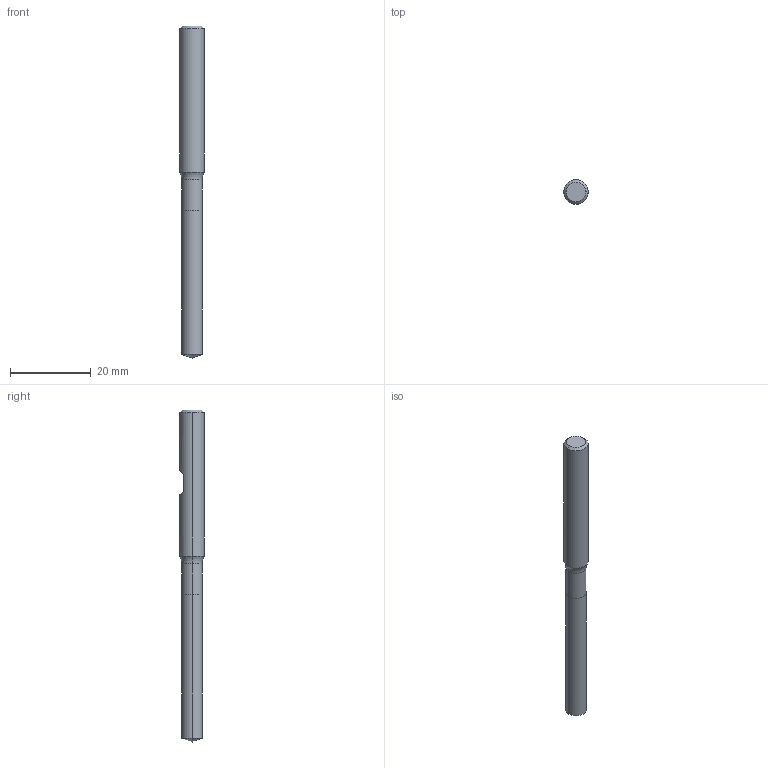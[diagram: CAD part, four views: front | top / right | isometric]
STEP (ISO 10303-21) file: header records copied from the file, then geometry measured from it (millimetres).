
FILE_DESCRIPTION (( 'STEP AP214' ), '1' );
FILE_NAME ('711.502.10_3D-model.step', '2022-02-22T18:34:48', ( '' ), ( '' ), 'SwSTEP 2.0', 'SolidWorks 2020', '' );
FILE_SCHEMA (( 'AUTOMOTIVE_DESIGN' ));
Length unit declared in the file: millimetre
Products named in the file (3): NOCUT-3D^Baugr77; 711.502.10_3D-model; CUT-3D^Baugr77
Assembly tree (2 placements, depth 2):
  711.502.10_3D-model
    CUT-3D^Baugr77
    NOCUT-3D^Baugr77
Bounding box: 6 x 6 x 82 mm (x, y, z)
Volume: 1905.8 mm3; surface area: 1474.9 mm2
Topology: 2 solids, 2 shells, 18 faces, 34 edges, 19 vertices
Faces by surface type: cylinder 6, plane 6, cone 4, torus 2
Entity records: 558 total; most frequent: DIRECTION 98, CARTESIAN_POINT 83, ORIENTED_EDGE 64, AXIS2_PLACEMENT_3D 42, EDGE_CURVE 32, EDGE_LOOP 19, VERTEX_POINT 19, FACE_OUTER_BOUND 18
